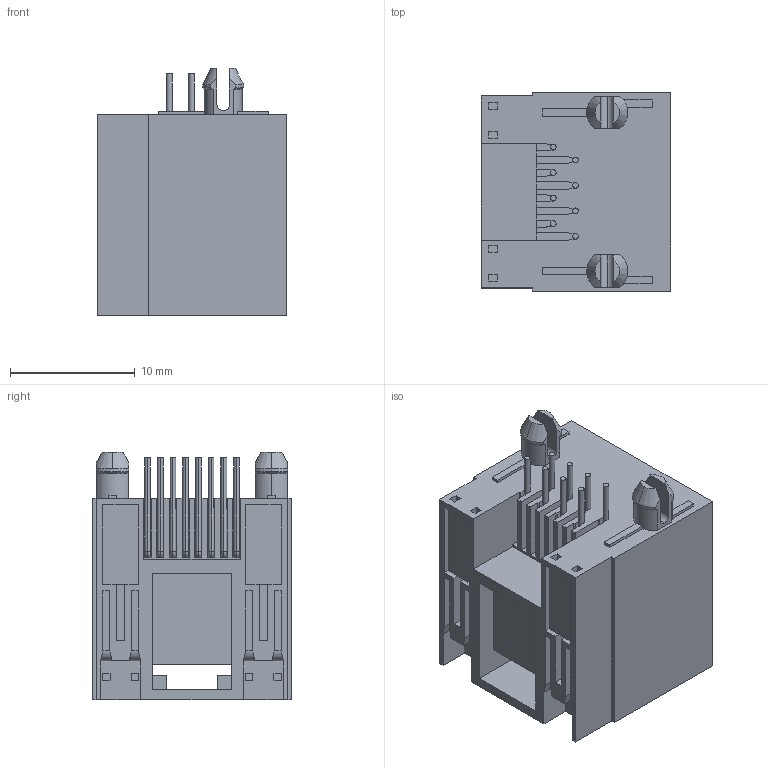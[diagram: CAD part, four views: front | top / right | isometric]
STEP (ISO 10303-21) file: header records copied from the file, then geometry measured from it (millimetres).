
FILE_DESCRIPTION (( 'STEP AP214' ), '1' );
FILE_NAME ('HC-RJ45-5JA-1-6.STEP', '2024-10-30T06:03:08', ( '' ), ( '' ), 'SwSTEP 2.0', 'SolidWorks 2022', '' );
FILE_SCHEMA (( 'AUTOMOTIVE_DESIGN' ));
Length unit declared in the file: millimetre
Products named in the file (1): HC-RJ45-5JA-1-6
Bounding box: 15.2 x 15.9 x 19.79 mm (x, y, z)
Volume: 2073.5 mm3; surface area: 3300.7 mm2
Topology: 1 solids, 1 shells, 526 faces, 1494 edges, 946 vertices
Faces by surface type: plane 330, cylinder 144, bspline 40, cone 12
Entity records: 17616 total; most frequent: CARTESIAN_POINT 4003, ORIENTED_EDGE 2988, DIRECTION 2708, EDGE_CURVE 1494, VECTOR 1070, LINE 1070, VERTEX_POINT 946, AXIS2_PLACEMENT_3D 819
